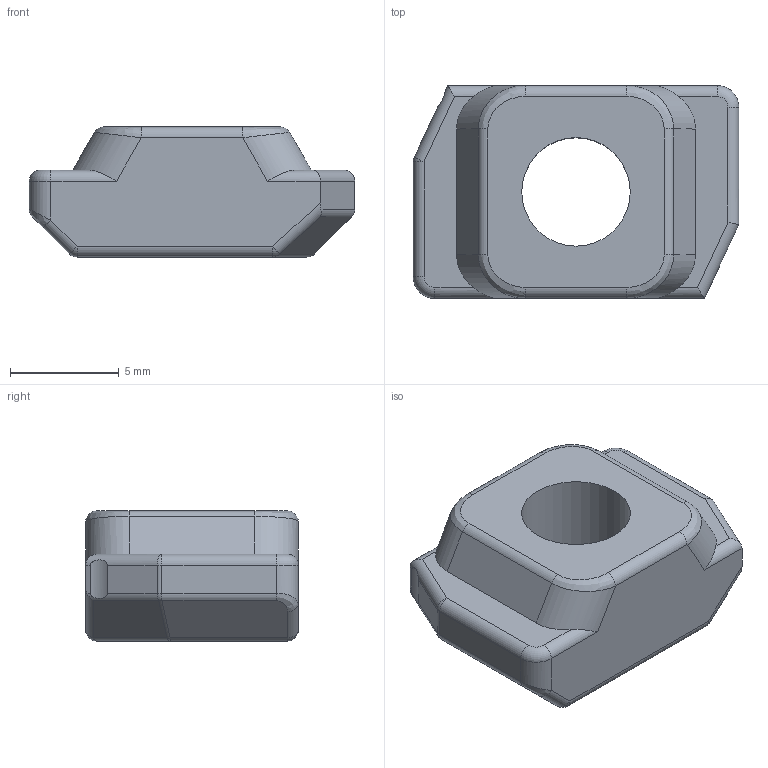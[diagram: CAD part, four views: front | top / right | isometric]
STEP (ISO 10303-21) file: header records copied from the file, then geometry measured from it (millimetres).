
FILE_DESCRIPTION(('STEP AP214'),'1');
FILE_NAME('ND40-M5.stp','2021-06-17T11:14:25',(' '),(' '),'Spatial InterOp 3D',' ',' ');
FILE_SCHEMA(('AUTOMOTIVE_DESIGN { 1 0 10303 214 1 1 1 1 }'));
Length unit declared in the file: millimetre
Products named in the file (1): ND40-M5
Bounding box: 15 x 9.8 x 6 mm (x, y, z)
Volume: 587.9 mm3; surface area: 529.1 mm2
Topology: 1 solids, 1 shells, 72 faces, 170 edges, 92 vertices
Faces by surface type: cylinder 38, plane 17, sphere 9, bspline 6, torus 2
Full cylindrical faces by diameter (mm): 5 x1
Entity records: 2904 total; most frequent: CARTESIAN_POINT 698, DIRECTION 364, ORIENTED_EDGE 322, EDGE_CURVE 161, AXIS2_PLACEMENT_3D 142, VERTEX_POINT 92, LINE 80, VECTOR 80
